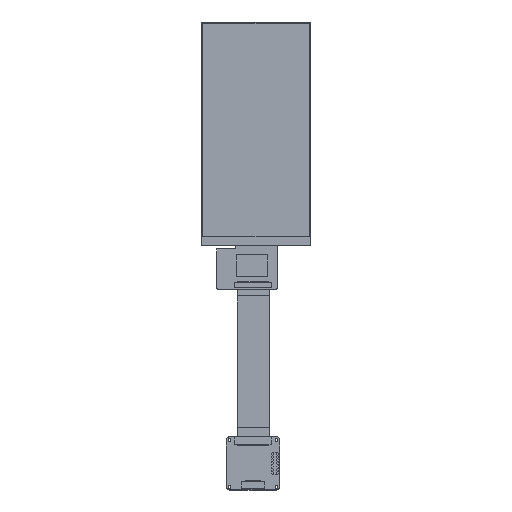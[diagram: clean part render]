
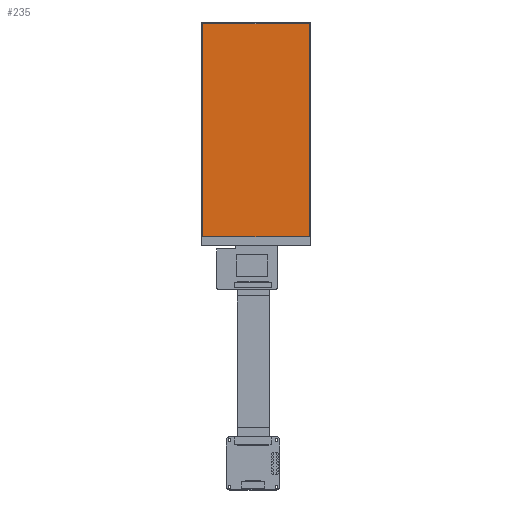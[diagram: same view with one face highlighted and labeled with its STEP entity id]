
A CAD part, top view. The second image highlights one B-rep face of the part: STEP entity #235.
In plain terms, the highlighted planar face has unit normal (0, 0, 1).
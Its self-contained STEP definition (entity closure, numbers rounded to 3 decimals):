
#83=DIRECTION('',(1.,0.,0.));
#84=VECTOR('',#83,68.04);
#85=CARTESIAN_POINT('',(-34.02,141.49,1.91));
#86=LINE('',#85,#84);
#87=DIRECTION('',(0.,1.,0.));
#88=VECTOR('',#87,136.08);
#89=CARTESIAN_POINT('',(-34.02,5.41,1.91));
#90=LINE('',#89,#88);
#91=DIRECTION('',(-1.,0.,0.));
#92=VECTOR('',#91,68.04);
#93=CARTESIAN_POINT('',(34.02,5.41,1.91));
#94=LINE('',#93,#92);
#95=DIRECTION('',(0.,-1.,0.));
#96=VECTOR('',#95,136.08);
#97=CARTESIAN_POINT('',(34.02,141.49,1.91));
#98=LINE('',#97,#96);
#115=CARTESIAN_POINT('',(-34.02,141.49,1.91));
#116=CARTESIAN_POINT('',(34.02,141.49,1.91));
#117=VERTEX_POINT('',#115);
#118=VERTEX_POINT('',#116);
#119=CARTESIAN_POINT('',(34.02,5.41,1.91));
#120=VERTEX_POINT('',#119);
#121=CARTESIAN_POINT('',(-34.02,5.41,1.91));
#122=VERTEX_POINT('',#121);
#224=CARTESIAN_POINT('',(0.,0.,1.91));
#225=DIRECTION('',(0.,0.,1.));
#226=DIRECTION('',(1.,0.,0.));
#227=AXIS2_PLACEMENT_3D('',#224,#225,#226);
#228=PLANE('',#227);
#229=ORIENTED_EDGE('',*,*,#206,.T.);
#230=ORIENTED_EDGE('',*,*,#212,.T.);
#231=ORIENTED_EDGE('',*,*,#210,.T.);
#232=ORIENTED_EDGE('',*,*,#208,.T.);
#233=EDGE_LOOP('',(#229,#230,#231,#232));
#234=FACE_OUTER_BOUND('',#233,.F.);
#206=EDGE_CURVE('',#117,#118,#86,.T.);
#208=EDGE_CURVE('',#122,#117,#90,.T.);
#210=EDGE_CURVE('',#120,#122,#94,.T.);
#212=EDGE_CURVE('',#118,#120,#98,.T.);
#235=ADVANCED_FACE('',(#234),#228,.T.);
